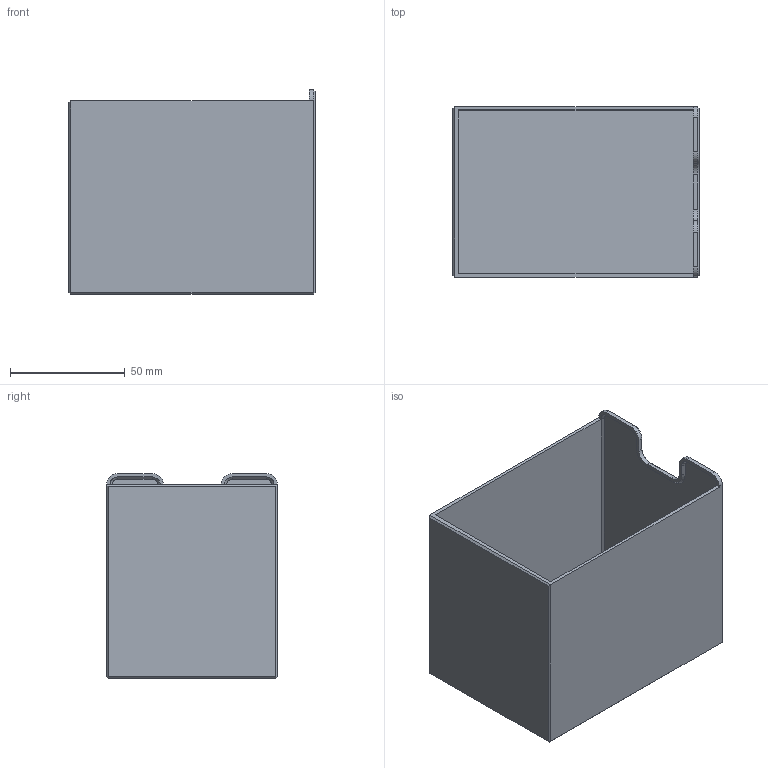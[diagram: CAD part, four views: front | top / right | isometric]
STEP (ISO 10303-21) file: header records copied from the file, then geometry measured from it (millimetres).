
FILE_DESCRIPTION(/* description */ (''),/* implementation_level */ '2;1');
FILE_NAME(/* name */ 'CupBoard v1-drawer4.step',/* time_stamp */ '2024-06-05T19:34:51+02:00',/* author */ (''),/* organization */ (''),/* preprocessor_version */ 'ST-DEVELOPER v20',/* originating_system */ 'Autodesk Translation Framework v13.14.0.145',/* authorisation */ '');
FILE_SCHEMA (('AUTOMOTIVE_DESIGN { 1 0 10303 214 3 1 1 }'));
Length unit declared in the file: millimetre
Products named in the file (2): CupBoard; Component4
Assembly tree (1 placements, depth 2):
  CupBoard
    Component4
Bounding box: 107.5 x 74.5 x 89.5 mm (x, y, z)
Volume: 56806.9 mm3; surface area: 75661.8 mm2
Topology: 1 solids, 1 shells, 64 faces, 156 edges, 94 vertices
Faces by surface type: plane 46, cone 10, cylinder 6, bspline 2
Entity records: 1985 total; most frequent: CARTESIAN_POINT 431, ORIENTED_EDGE 312, DIRECTION 304, EDGE_CURVE 156, LINE 122, VECTOR 122, VERTEX_POINT 94, AXIS2_PLACEMENT_3D 91
